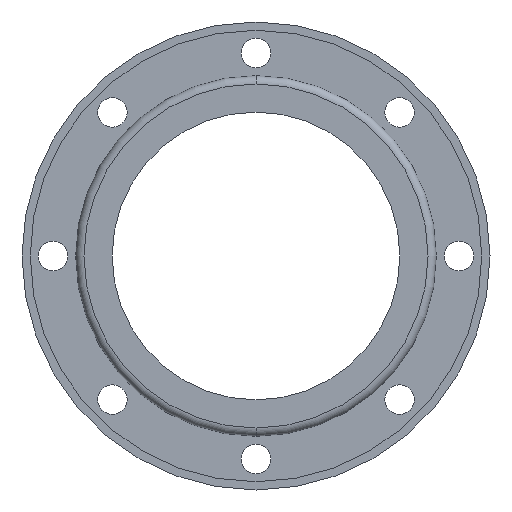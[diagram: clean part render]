
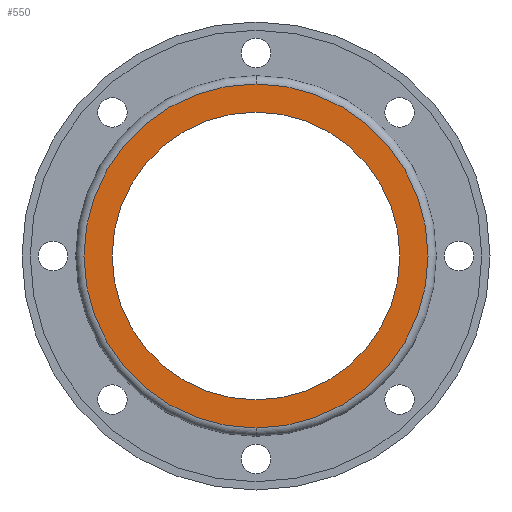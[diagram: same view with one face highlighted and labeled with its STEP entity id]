
A CAD part, front view. The second image highlights one B-rep face of the part: STEP entity #550.
In plain terms, the highlighted planar face has unit normal (0, -1, 0).
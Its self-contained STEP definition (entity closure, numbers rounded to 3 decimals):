
#45 = DIRECTION ( 'NONE',  ( 0., 0., -1. ) ) ;
#77 = CARTESIAN_POINT ( 'NONE',  ( 0., 0., 0. ) ) ;
#111 = DIRECTION ( 'NONE',  ( 0., 1., 0. ) ) ;
#128 = FACE_OUTER_BOUND ( 'NONE', #1110, .T. ) ;
#168 = AXIS2_PLACEMENT_3D ( 'NONE', #381, #111, #591 ) ;
#171 = EDGE_CURVE ( 'NONE', #308, #536, #1043, .T. ) ;
#179 = AXIS2_PLACEMENT_3D ( 'NONE', #728, #1026, #182 ) ;
#182 = DIRECTION ( 'NONE',  ( 0., 0., 1. ) ) ;
#215 = DIRECTION ( 'NONE',  ( 0., 0., 1. ) ) ;
#305 = EDGE_CURVE ( 'NONE', #757, #802, #1227, .T. ) ;
#307 = DIRECTION ( 'NONE',  ( 0., 1., 0. ) ) ;
#308 = VERTEX_POINT ( 'NONE', #651 ) ;
#312 = CARTESIAN_POINT ( 'NONE',  ( 0., 0., 0. ) ) ;
#381 = CARTESIAN_POINT ( 'NONE',  ( 0., 0., 0. ) ) ;
#417 = AXIS2_PLACEMENT_3D ( 'NONE', #77, #926, #824 ) ;
#496 = CARTESIAN_POINT ( 'NONE',  ( -125., 0., 0. ) ) ;
#536 = VERTEX_POINT ( 'NONE', #594 ) ;
#550 = ADVANCED_FACE ( 'NONE', ( #889, #128 ), #803, .T. ) ;
#591 = DIRECTION ( 'NONE',  ( 0., 0., 1. ) ) ;
#594 = CARTESIAN_POINT ( 'NONE',  ( 0., 0., 125. ) ) ;
#605 = AXIS2_PLACEMENT_3D ( 'NONE', #312, #307, #215 ) ;
#651 = CARTESIAN_POINT ( 'NONE',  ( 0., 0., -125. ) ) ;
#663 = ORIENTED_EDGE ( 'NONE', *, *, #999, .T. ) ;
#664 = CARTESIAN_POINT ( 'NONE',  ( 0., 0., -104.5 ) ) ;
#728 = CARTESIAN_POINT ( 'NONE',  ( 0., 0., 0. ) ) ;
#757 = VERTEX_POINT ( 'NONE', #664 ) ;
#763 = EDGE_LOOP ( 'NONE', ( #663, #1209 ) ) ;
#802 = VERTEX_POINT ( 'NONE', #1234 ) ;
#803 = PLANE ( 'NONE',  #1199 ) ;
#824 = DIRECTION ( 'NONE',  ( 0., 0., 1. ) ) ;
#874 = ORIENTED_EDGE ( 'NONE', *, *, #171, .F. ) ;
#881 = DIRECTION ( 'NONE',  ( 0., -1., 0. ) ) ;
#886 = CIRCLE ( 'NONE', #179, 104.5 ) ;
#889 = FACE_BOUND ( 'NONE', #763, .T. ) ;
#926 = DIRECTION ( 'NONE',  ( 0., 1., 0. ) ) ;
#945 = ORIENTED_EDGE ( 'NONE', *, *, #1140, .F. ) ;
#999 = EDGE_CURVE ( 'NONE', #802, #757, #886, .T. ) ;
#1026 = DIRECTION ( 'NONE',  ( 0., 1., 0. ) ) ;
#1043 = CIRCLE ( 'NONE', #605, 125. ) ;
#1059 = CIRCLE ( 'NONE', #168, 125. ) ;
#1110 = EDGE_LOOP ( 'NONE', ( #945, #874 ) ) ;
#1140 = EDGE_CURVE ( 'NONE', #536, #308, #1059, .T. ) ;
#1199 = AXIS2_PLACEMENT_3D ( 'NONE', #496, #881, #45 ) ;
#1209 = ORIENTED_EDGE ( 'NONE', *, *, #305, .T. ) ;
#1227 = CIRCLE ( 'NONE', #417, 104.5 ) ;
#1234 = CARTESIAN_POINT ( 'NONE',  ( 0., 0., 104.5 ) ) ;
